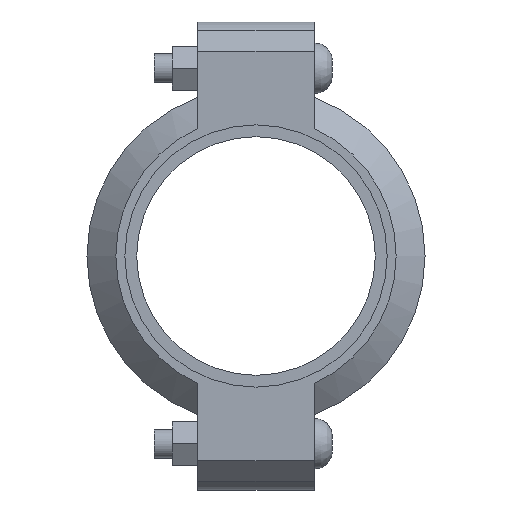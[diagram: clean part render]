
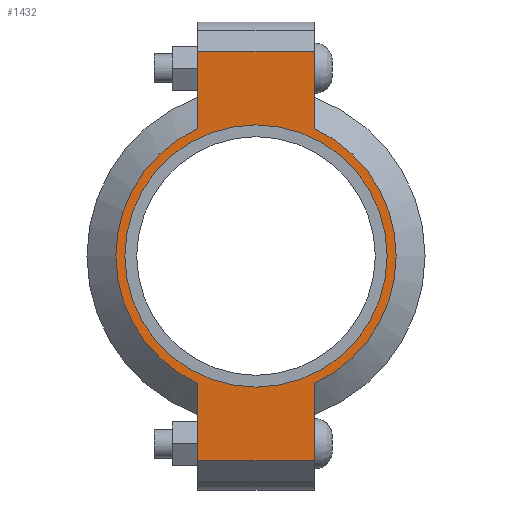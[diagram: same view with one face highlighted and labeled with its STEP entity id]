
A CAD part, left-side view. The second image highlights one B-rep face of the part: STEP entity #1432.
In plain terms, the highlighted planar face has unit normal (-1, 0, 0) as drawn and (0, 0, 1) by its records, which use the part's own axes.
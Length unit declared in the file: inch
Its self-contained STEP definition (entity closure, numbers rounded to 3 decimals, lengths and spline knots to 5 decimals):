
#112=LINE('',#2465,#203);
#120=LINE('',#2501,#211);
#127=LINE('',#2522,#218);
#136=LINE('',#2554,#227);
#137=LINE('',#2558,#228);
#138=LINE('',#2560,#229);
#203=VECTOR('',#1999,0.3937);
#211=VECTOR('',#2015,0.3937);
#218=VECTOR('',#2034,0.3937);
#227=VECTOR('',#2059,0.3937);
#228=VECTOR('',#2064,0.3937);
#229=VECTOR('',#2065,0.3937);
#281=FACE_BOUND('',#441,.T.);
#345=FACE_OUTER_BOUND('',#440,.T.);
#440=EDGE_LOOP('',(#1167,#1168,#1169,#1170,#1171,#1172,#1173,#1174));
#441=EDGE_LOOP('',(#1175));
#538=CIRCLE('',#1675,2.405);
#539=CIRCLE('',#1676,2.405);
#540=CIRCLE('',#1677,2.25);
#643=VERTEX_POINT('',#2462);
#644=VERTEX_POINT('',#2464);
#655=VERTEX_POINT('',#2496);
#656=VERTEX_POINT('',#2500);
#663=VERTEX_POINT('',#2519);
#664=VERTEX_POINT('',#2521);
#674=VERTEX_POINT('',#2557);
#675=VERTEX_POINT('',#2559);
#676=VERTEX_POINT('',#2562);
#807=EDGE_CURVE('',#644,#643,#112,.T.);
#821=EDGE_CURVE('',#656,#655,#120,.T.);
#831=EDGE_CURVE('',#664,#663,#127,.T.);
#846=EDGE_CURVE('',#656,#643,#136,.T.);
#847=EDGE_CURVE('',#655,#664,#538,.T.);
#848=EDGE_CURVE('',#674,#663,#137,.T.);
#849=EDGE_CURVE('',#674,#675,#138,.T.);
#850=EDGE_CURVE('',#675,#644,#539,.T.);
#851=EDGE_CURVE('',#676,#676,#540,.T.);
#1167=ORIENTED_EDGE('',*,*,#846,.F.);
#1168=ORIENTED_EDGE('',*,*,#821,.T.);
#1169=ORIENTED_EDGE('',*,*,#847,.T.);
#1170=ORIENTED_EDGE('',*,*,#831,.T.);
#1171=ORIENTED_EDGE('',*,*,#848,.F.);
#1172=ORIENTED_EDGE('',*,*,#849,.T.);
#1173=ORIENTED_EDGE('',*,*,#850,.T.);
#1174=ORIENTED_EDGE('',*,*,#807,.T.);
#1175=ORIENTED_EDGE('',*,*,#851,.T.);
#1286=PLANE('',#1674);
#1432=ADVANCED_FACE('',(#345,#281),#1286,.T.);
#1674=AXIS2_PLACEMENT_3D('',#2555,#2060,#2061);
#1675=AXIS2_PLACEMENT_3D('',#2556,#2062,#2063);
#1676=AXIS2_PLACEMENT_3D('',#2561,#2066,#2067);
#1677=AXIS2_PLACEMENT_3D('',#2563,#2068,#2069);
#1999=DIRECTION('',(-1.,0.,0.));
#2015=DIRECTION('',(1.,0.,0.));
#2034=DIRECTION('',(1.,0.,0.));
#2059=DIRECTION('',(0.,1.,0.));
#2060=DIRECTION('center_axis',(0.,0.,1.));
#2061=DIRECTION('ref_axis',(1.,0.,0.));
#2062=DIRECTION('center_axis',(0.,0.,1.));
#2063=DIRECTION('ref_axis',(-1.,0.,0.));
#2064=DIRECTION('',(0.,-1.,0.));
#2065=DIRECTION('',(-1.,0.,0.));
#2066=DIRECTION('center_axis',(0.,0.,1.));
#2067=DIRECTION('ref_axis',(-1.,0.,0.));
#2068=DIRECTION('center_axis',(0.,0.,-1.));
#2069=DIRECTION('ref_axis',(-1.,0.,0.));
#2462=CARTESIAN_POINT('',(-3.515,1.,1.065));
#2464=CARTESIAN_POINT('',(-2.18724,1.,1.065));
#2465=CARTESIAN_POINT('',(-4.015,1.,1.065));
#2496=CARTESIAN_POINT('',(-2.18724,-1.,1.065));
#2500=CARTESIAN_POINT('',(-3.515,-1.,1.065));
#2501=CARTESIAN_POINT('',(4.015,-1.,1.065));
#2519=CARTESIAN_POINT('',(3.515,-1.,1.065));
#2521=CARTESIAN_POINT('',(2.18724,-1.,1.065));
#2522=CARTESIAN_POINT('',(4.015,-1.,1.065));
#2554=CARTESIAN_POINT('',(-3.515,0.5,1.065));
#2555=CARTESIAN_POINT('Origin',(0.,0.,1.065));
#2556=CARTESIAN_POINT('Origin',(0.,0.,1.065));
#2557=CARTESIAN_POINT('',(3.515,1.,1.065));
#2558=CARTESIAN_POINT('',(3.515,-0.5,1.065));
#2559=CARTESIAN_POINT('',(2.18724,1.,1.065));
#2560=CARTESIAN_POINT('',(-4.015,1.,1.065));
#2561=CARTESIAN_POINT('Origin',(0.,0.,1.065));
#2562=CARTESIAN_POINT('',(2.25,0.,1.065));
#2563=CARTESIAN_POINT('Origin',(0.,0.,1.065));
